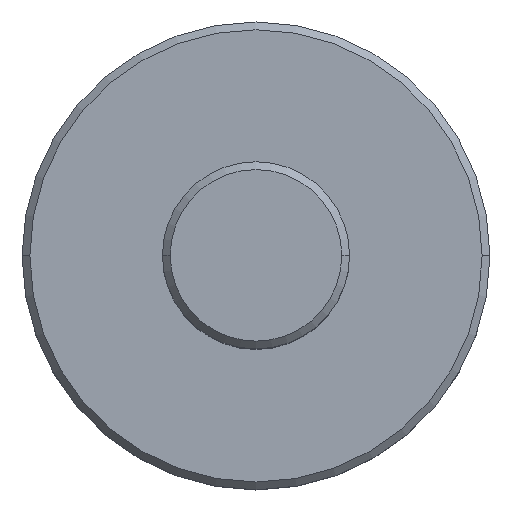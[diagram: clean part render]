
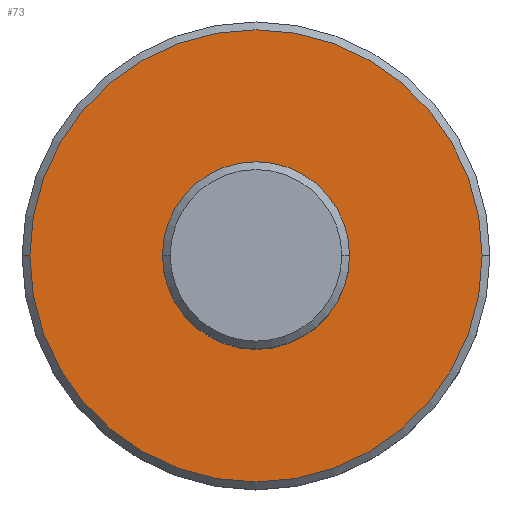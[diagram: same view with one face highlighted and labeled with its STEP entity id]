
A CAD part, top view. The second image highlights one B-rep face of the part: STEP entity #73.
In plain terms, the highlighted planar face has unit normal (0, 0, 1).
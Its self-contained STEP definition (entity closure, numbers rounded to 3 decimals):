
#35=AXIS2_PLACEMENT_3D('Plane Axis2P3D',#32,#33,#34) ;
#39=AXIS2_PLACEMENT_3D('Circle Axis2P3D',#37,#38,$) ;
#48=AXIS2_PLACEMENT_3D('Circle Axis2P3D',#46,#47,$) ;
#57=AXIS2_PLACEMENT_3D('Circle Axis2P3D',#55,#56,$) ;
#66=AXIS2_PLACEMENT_3D('Circle Axis2P3D',#64,#65,$) ;
#32=CARTESIAN_POINT('Axis2P3D Location',(0.,0.,7.)) ;
#37=CARTESIAN_POINT('Axis2P3D Location',(0.,0.,7.)) ;
#41=CARTESIAN_POINT('Vertex',(-14.5,0.,7.)) ;
#43=CARTESIAN_POINT('Vertex',(14.5,0.,7.)) ;
#46=CARTESIAN_POINT('Axis2P3D Location',(0.,0.,7.)) ;
#55=CARTESIAN_POINT('Axis2P3D Location',(0.,0.,7.)) ;
#59=CARTESIAN_POINT('Vertex',(6.,0.,7.)) ;
#61=CARTESIAN_POINT('Vertex',(-6.,0.,7.)) ;
#64=CARTESIAN_POINT('Axis2P3D Location',(0.,0.,7.)) ;
#33=DIRECTION('Axis2P3D Direction',(0.,0.,1.)) ;
#34=DIRECTION('Axis2P3D XDirection',(1.,0.,0.)) ;
#38=DIRECTION('Axis2P3D Direction',(0.,0.,1.)) ;
#47=DIRECTION('Axis2P3D Direction',(0.,0.,1.)) ;
#56=DIRECTION('Axis2P3D Direction',(0.,0.,1.)) ;
#65=DIRECTION('Axis2P3D Direction',(0.,0.,1.)) ;
#52=ORIENTED_EDGE('',*,*,#45,.T.) ;
#53=ORIENTED_EDGE('',*,*,#50,.T.) ;
#70=ORIENTED_EDGE('',*,*,#63,.F.) ;
#71=ORIENTED_EDGE('',*,*,#68,.F.) ;
#72=FACE_BOUND('',#69,.T.) ;
#73=ADVANCED_FACE('\X2\96F64EF651E04F554F53\X0\',(#54,#72),#36,.T.) ;
#40=CIRCLE('generated circle',#39,14.5) ;
#49=CIRCLE('generated circle',#48,14.5) ;
#58=CIRCLE('generated circle',#57,6.) ;
#67=CIRCLE('generated circle',#66,6.) ;
#45=EDGE_CURVE('',#42,#44,#40,.T.) ;
#50=EDGE_CURVE('',#44,#42,#49,.T.) ;
#63=EDGE_CURVE('',#60,#62,#58,.T.) ;
#68=EDGE_CURVE('',#62,#60,#67,.T.) ;
#51=EDGE_LOOP('',(#52,#53)) ;
#69=EDGE_LOOP('',(#70,#71)) ;
#54=FACE_OUTER_BOUND('',#51,.T.) ;
#36=PLANE('',#35) ;
#42=VERTEX_POINT('',#41) ;
#44=VERTEX_POINT('',#43) ;
#60=VERTEX_POINT('',#59) ;
#62=VERTEX_POINT('',#61) ;
